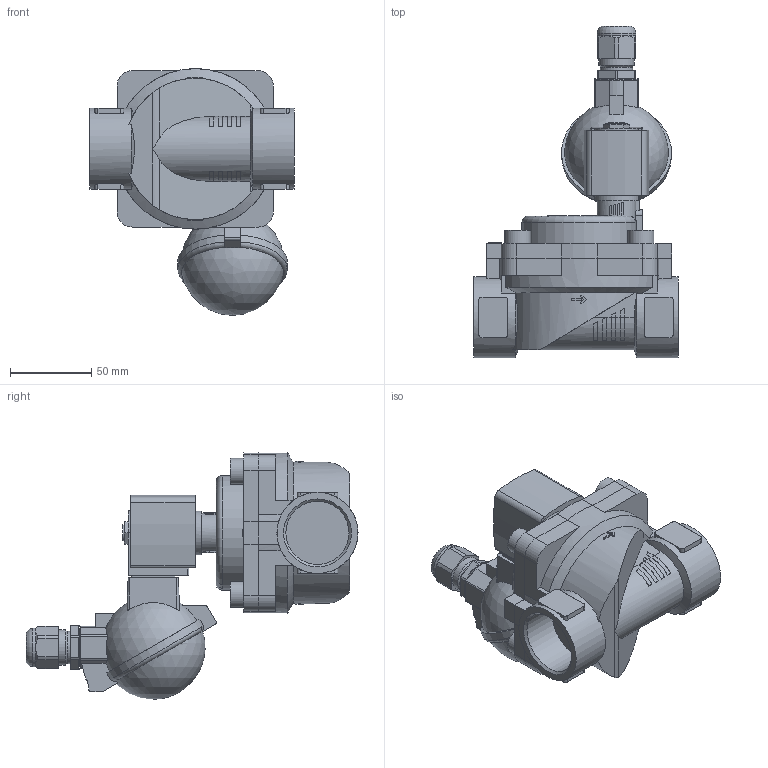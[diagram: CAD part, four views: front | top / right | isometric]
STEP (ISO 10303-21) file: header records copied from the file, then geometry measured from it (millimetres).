
FILE_DESCRIPTION(/* description */ ('STEP AP214'),/* implementation_level */ '2;1');
FILE_NAME(/* name */ '6281-380496-2_2-Way_Solenoid_Valve__Servo-assisted__General_Purpose',/* time_stamp */ '2024-09-04T15:20:14+02:00',/* author */ ('License CC BY-ND 4.0'),/* organization */ ('CADENAS'),/* preprocessor_version */ 'ST-DEVELOPER v19.3',/* originating_system */ 'PARTsolutions',/* authorisation */ ' ');
FILE_SCHEMA (('AUTOMOTIVE_DESIGN {1 0 10303 214 3 1 1}'));
Length unit declared in the file: millimetre
Products named in the file (4): 6281-380496-2/2-Way Solenoid Valve, Servo-assisted, General Purpose; 5281ev400MS2/2-Wege-Magnetventil mit Servomembran-Deckel 99 ; 6213-40G1_1/4MS-Gehaeuse-; AC10ex-6ATEXKLK_MB05Plan-Coil
Assembly tree (3 placements, depth 2):
  6281-380496-2/2-Way Solenoid Valve, Servo-assisted, General Purpose
    5281ev400MS2/2-Wege-Magnetventil mit Servomembran-Deckel 99 
    6213-40G1_1/4MS-Gehaeuse-
    AC10ex-6ATEXKLK_MB05Plan-Coil
Bounding box: 126 x 204.8 x 152.2 mm (x, y, z)
Volume: 786949.3 mm3; surface area: 110185.8 mm2
Topology: 3 solids, 3 shells, 398 faces, 1067 edges, 703 vertices
Faces by surface type: plane 244, cylinder 119, cone 27, torus 4, sphere 4
Full cylindrical faces by diameter (mm): 3.242 x1, 9.74 x1, 14 x1, 16 x4, 17.294 x1, 20 x1, 22 x1, 23 x1, 24 x1, 27 x2, 38.952 x2, 50 x2
Entity records: 14027 total; most frequent: CARTESIAN_POINT 2480, DIRECTION 2080, ORIENTED_EDGE 2052, EDGE_CURVE 1026, AXIS2_PLACEMENT_3D 746, VERTEX_POINT 689, LINE 588, VECTOR 588
